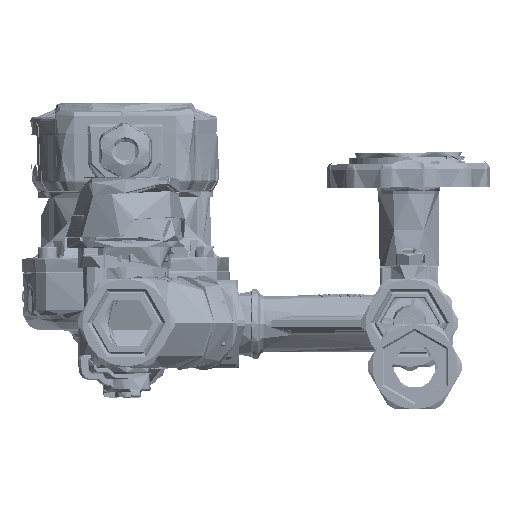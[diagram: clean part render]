
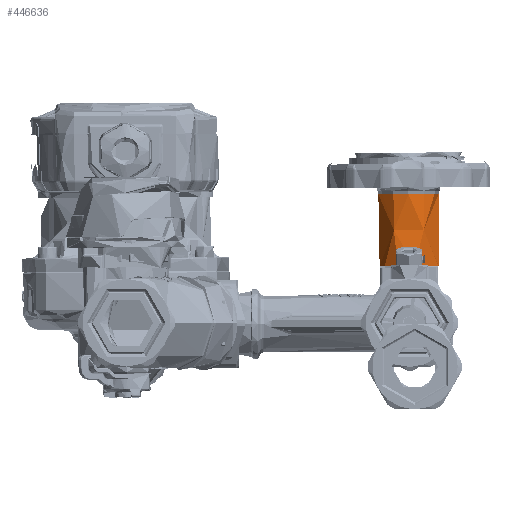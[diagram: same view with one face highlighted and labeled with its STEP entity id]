
A CAD part, left-side view. The second image highlights one B-rep face of the part: STEP entity #446636.
In plain terms, the highlighted conical face has half-angle 0.5 degrees and reference radius 13.021 mm.
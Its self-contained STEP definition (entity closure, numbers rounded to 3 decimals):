
#6574 = CARTESIAN_POINT ( 'NONE',  ( 0., 0., 0. ) ) ;
#12517 = AXIS2_PLACEMENT_3D ( 'NONE', #86248, #381504, #53918 ) ;
#27279 = ORIENTED_EDGE ( 'NONE', *, *, #297485, .F. ) ;
#27773 = VERTEX_POINT ( 'NONE', #288202 ) ;
#53918 = DIRECTION ( 'NONE',  ( 0., 0., -1. ) ) ;
#54176 = FACE_OUTER_BOUND ( 'NONE', #229239, .T. ) ;
#86248 = CARTESIAN_POINT ( 'NONE',  ( 0., 31.026, 0. ) ) ;
#103937 = ORIENTED_EDGE ( 'NONE', *, *, #140768, .T. ) ;
#111897 = CARTESIAN_POINT ( 'NONE',  ( -12.503, 0., -2.5 ) ) ;
#128377 = CARTESIAN_POINT ( 'NONE',  ( -13.021, 31.026, 0. ) ) ;
#140768 = EDGE_CURVE ( 'NONE', #356622, #463163, #142042, .T. ) ;
#142042 = B_SPLINE_CURVE_WITH_KNOTS ( 'NONE', 3,
 ( #401836, #442071, #520021, #482370, #525327, #358929, #283630, #361552, #479723, #111897 ),
 .UNSPECIFIED., .F., .F.,
 ( 4, 2, 2, 2, 4 ),
 ( 0., 0.25, 0.5, 0.75, 1. ),
 .UNSPECIFIED. ) ;
#171348 = LINE ( 'NONE', #128377, #176846 ) ;
#176846 = VECTOR ( 'NONE', #335056, 1000. ) ;
#177755 = DIRECTION ( 'NONE',  ( -1., 0., 0. ) ) ;
#178048 = DIRECTION ( 'NONE',  ( 0., 1., 0. ) ) ;
#179570 = DIRECTION ( 'NONE',  ( 0., -1., 0. ) ) ;
#183054 = CARTESIAN_POINT ( 'NONE',  ( 12.75, 0., 0. ) ) ;
#194625 = VERTEX_POINT ( 'NONE', #183054 ) ;
#195684 = CARTESIAN_POINT ( 'NONE',  ( -12.503, 0., -2.5 ) ) ;
#210376 = DIRECTION ( 'NONE',  ( -1., 0., 0. ) ) ;
#223132 = LINE ( 'NONE', #341317, #351962 ) ;
#227012 = EDGE_CURVE ( 'NONE', #27773, #240077, #328995, .T. ) ;
#229239 = EDGE_LOOP ( 'NONE', ( #27279, #388939, #103937, #529511, #478966, #230321, #478959 ) ) ;
#230321 = ORIENTED_EDGE ( 'NONE', *, *, #263219, .T. ) ;
#240077 = VERTEX_POINT ( 'NONE', #461572 ) ;
#262685 = CARTESIAN_POINT ( 'NONE',  ( 0., 31.026, 0. ) ) ;
#263219 = EDGE_CURVE ( 'NONE', #476313, #27773, #329907, .T. ) ;
#263835 = AXIS2_PLACEMENT_3D ( 'NONE', #414393, #178048, #210376 ) ;
#264555 = VERTEX_POINT ( 'NONE', #471248 ) ;
#275727 = CARTESIAN_POINT ( 'NONE',  ( -13.021, 31.026, 0. ) ) ;
#275738 = CONICAL_SURFACE ( 'NONE', #318255, 13.021, 0.009 ) ;
#283630 = CARTESIAN_POINT ( 'NONE',  ( -10.652, 0., -7.118 ) ) ;
#288202 = CARTESIAN_POINT ( 'NONE',  ( 0., 31.026, -13.021 ) ) ;
#297485 = EDGE_CURVE ( 'NONE', #194625, #240077, #223132, .T. ) ;
#302657 = EDGE_CURVE ( 'NONE', #463163, #264555, #482578, .T. ) ;
#318255 = AXIS2_PLACEMENT_3D ( 'NONE', #381759, #344103, #177755 ) ;
#320164 = AXIS2_PLACEMENT_3D ( 'NONE', #262685, #179570, #343256 ) ;
#328995 = CIRCLE ( 'NONE', #320164, 13.021 ) ;
#329907 = CIRCLE ( 'NONE', #12517, 13.021 ) ;
#331199 = EDGE_CURVE ( 'NONE', #194625, #356622, #529454, .T. ) ;
#335056 = DIRECTION ( 'NONE',  ( -0.009, 1., 0. ) ) ;
#341317 = CARTESIAN_POINT ( 'NONE',  ( 13.021, 31.026, 0. ) ) ;
#343256 = DIRECTION ( 'NONE',  ( 0., 0., -1. ) ) ;
#344103 = DIRECTION ( 'NONE',  ( 0., 1., 0. ) ) ;
#351962 = VECTOR ( 'NONE', #505086, 1000. ) ;
#356622 = VERTEX_POINT ( 'NONE', #420671 ) ;
#358929 = CARTESIAN_POINT ( 'NONE',  ( -9.9, 0., -8.132 ) ) ;
#361552 = CARTESIAN_POINT ( 'NONE',  ( -11.832, 0., -4.914 ) ) ;
#371063 = AXIS2_PLACEMENT_3D ( 'NONE', #6574, #412122, #449754 ) ;
#381504 = DIRECTION ( 'NONE',  ( 0., -1., 0. ) ) ;
#381759 = CARTESIAN_POINT ( 'NONE',  ( 0., 31.026, 0. ) ) ;
#388939 = ORIENTED_EDGE ( 'NONE', *, *, #331199, .T. ) ;
#401836 = CARTESIAN_POINT ( 'NONE',  ( -2.5, 0., -12.503 ) ) ;
#412122 = DIRECTION ( 'NONE',  ( 0., 1., 0. ) ) ;
#414393 = CARTESIAN_POINT ( 'NONE',  ( 0., 0., 0. ) ) ;
#420671 = CARTESIAN_POINT ( 'NONE',  ( -2.5, 0., -12.503 ) ) ;
#442071 = CARTESIAN_POINT ( 'NONE',  ( -3.725, 0., -12.258 ) ) ;
#446636 = ADVANCED_FACE ( 'NONE', ( #54176 ), #275738, .T. ) ;
#449754 = DIRECTION ( 'NONE',  ( 0., 0., 1. ) ) ;
#461572 = CARTESIAN_POINT ( 'NONE',  ( 13.021, 31.026, 0. ) ) ;
#463163 = VERTEX_POINT ( 'NONE', #195684 ) ;
#471248 = CARTESIAN_POINT ( 'NONE',  ( -12.75, 0., 0. ) ) ;
#476313 = VERTEX_POINT ( 'NONE', #275727 ) ;
#478959 = ORIENTED_EDGE ( 'NONE', *, *, #227012, .T. ) ;
#478966 = ORIENTED_EDGE ( 'NONE', *, *, #486065, .T. ) ;
#479723 = CARTESIAN_POINT ( 'NONE',  ( -12.258, 0., -3.725 ) ) ;
#482370 = CARTESIAN_POINT ( 'NONE',  ( -7.118, 0., -10.652 ) ) ;
#482578 = CIRCLE ( 'NONE', #371063, 12.75 ) ;
#486065 = EDGE_CURVE ( 'NONE', #264555, #476313, #171348, .T. ) ;
#505086 = DIRECTION ( 'NONE',  ( 0.009, 1., 0. ) ) ;
#520021 = CARTESIAN_POINT ( 'NONE',  ( -4.914, 0., -11.832 ) ) ;
#525327 = CARTESIAN_POINT ( 'NONE',  ( -8.132, 0., -9.9 ) ) ;
#529454 = CIRCLE ( 'NONE', #263835, 12.75 ) ;
#529511 = ORIENTED_EDGE ( 'NONE', *, *, #302657, .T. ) ;
